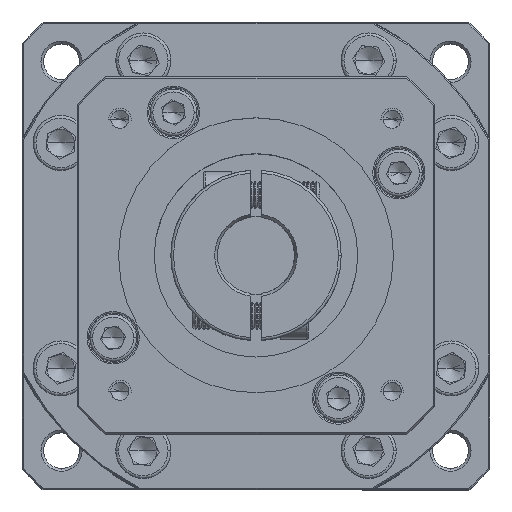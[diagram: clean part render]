
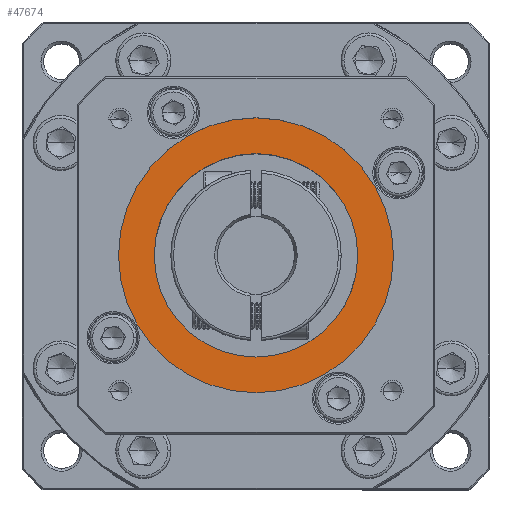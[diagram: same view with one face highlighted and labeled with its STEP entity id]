
A CAD part, top view. The second image highlights one B-rep face of the part: STEP entity #47674.
In plain terms, the highlighted planar face has unit normal (0, 0, 1).
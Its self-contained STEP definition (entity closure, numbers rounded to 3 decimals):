
#5988 = CARTESIAN_POINT ( 'NONE',  ( -67.522, 32.096, 10.094 ) ) ;
#6835 = VERTEX_POINT ( 'NONE', #42279 ) ;
#7823 = EDGE_CURVE ( 'NONE', #69451, #104393, #86658, .T. ) ;
#8203 = DIRECTION ( 'NONE',  ( 1., 0., 0. ) ) ;
#8956 = AXIS2_PLACEMENT_3D ( 'NONE', #65733, #12273, #74679 ) ;
#12273 = DIRECTION ( 'NONE',  ( 0., 0., -1. ) ) ;
#14888 = DIRECTION ( 'NONE',  ( 1., 0., 0. ) ) ;
#15445 = CARTESIAN_POINT ( 'NONE',  ( -42.522, 32.096, 10.094 ) ) ;
#19768 = FACE_BOUND ( 'NONE', #104509, .T. ) ;
#19891 = CIRCLE ( 'NONE', #85800, 18.5 ) ;
#21540 = CIRCLE ( 'NONE', #51716, 25. ) ;
#23978 = EDGE_LOOP ( 'NONE', ( #103840, #95531 ) ) ;
#27688 = CARTESIAN_POINT ( 'NONE',  ( -67.522, 32.096, 10.094 ) ) ;
#28772 = EDGE_CURVE ( 'NONE', #6835, #54170, #91508, .T. ) ;
#29903 = ORIENTED_EDGE ( 'NONE', *, *, #28772, .T. ) ;
#36703 = DIRECTION ( 'NONE',  ( 1., 0., 0. ) ) ;
#38695 = DIRECTION ( 'NONE',  ( 0., 0., 1. ) ) ;
#40360 = AXIS2_PLACEMENT_3D ( 'NONE', #27688, #90010, #36703 ) ;
#42279 = CARTESIAN_POINT ( 'NONE',  ( -49.022, 32.096, 10.094 ) ) ;
#47674 = ADVANCED_FACE ( 'NONE', ( #64450, #19768 ), #62422, .T. ) ;
#51716 = AXIS2_PLACEMENT_3D ( 'NONE', #114985, #61583, #8203 ) ;
#51900 = AXIS2_PLACEMENT_3D ( 'NONE', #91993, #38695, #100964 ) ;
#54170 = VERTEX_POINT ( 'NONE', #91202 ) ;
#61583 = DIRECTION ( 'NONE',  ( 0., 0., 1. ) ) ;
#62422 = PLANE ( 'NONE',  #40360 ) ;
#64450 = FACE_OUTER_BOUND ( 'NONE', #23978, .T. ) ;
#65733 = CARTESIAN_POINT ( 'NONE',  ( -67.522, 32.096, 10.094 ) ) ;
#68330 = DIRECTION ( 'NONE',  ( 0., 0., -1. ) ) ;
#69451 = VERTEX_POINT ( 'NONE', #85421 ) ;
#69494 = EDGE_CURVE ( 'NONE', #54170, #6835, #19891, .T. ) ;
#74679 = DIRECTION ( 'NONE',  ( 1., 0., 0. ) ) ;
#84806 = EDGE_CURVE ( 'NONE', #104393, #69451, #21540, .T. ) ;
#85421 = CARTESIAN_POINT ( 'NONE',  ( -92.522, 32.096, 10.094 ) ) ;
#85800 = AXIS2_PLACEMENT_3D ( 'NONE', #5988, #68330, #14888 ) ;
#86658 = CIRCLE ( 'NONE', #51900, 25. ) ;
#88439 = ORIENTED_EDGE ( 'NONE', *, *, #69494, .T. ) ;
#90010 = DIRECTION ( 'NONE',  ( 0., 0., 1. ) ) ;
#91202 = CARTESIAN_POINT ( 'NONE',  ( -86.022, 32.096, 10.094 ) ) ;
#91508 = CIRCLE ( 'NONE', #8956, 18.5 ) ;
#91993 = CARTESIAN_POINT ( 'NONE',  ( -67.522, 32.096, 10.094 ) ) ;
#95531 = ORIENTED_EDGE ( 'NONE', *, *, #7823, .T. ) ;
#100964 = DIRECTION ( 'NONE',  ( 1., 0., 0. ) ) ;
#103840 = ORIENTED_EDGE ( 'NONE', *, *, #84806, .T. ) ;
#104393 = VERTEX_POINT ( 'NONE', #15445 ) ;
#104509 = EDGE_LOOP ( 'NONE', ( #29903, #88439 ) ) ;
#114985 = CARTESIAN_POINT ( 'NONE',  ( -67.522, 32.096, 10.094 ) ) ;
